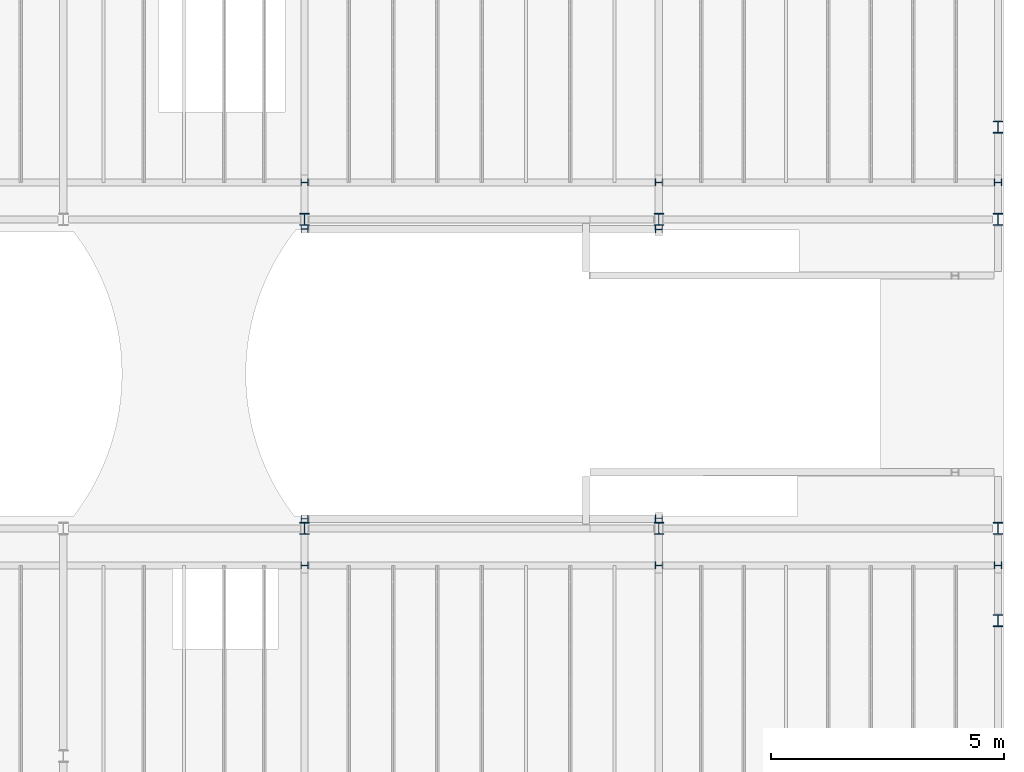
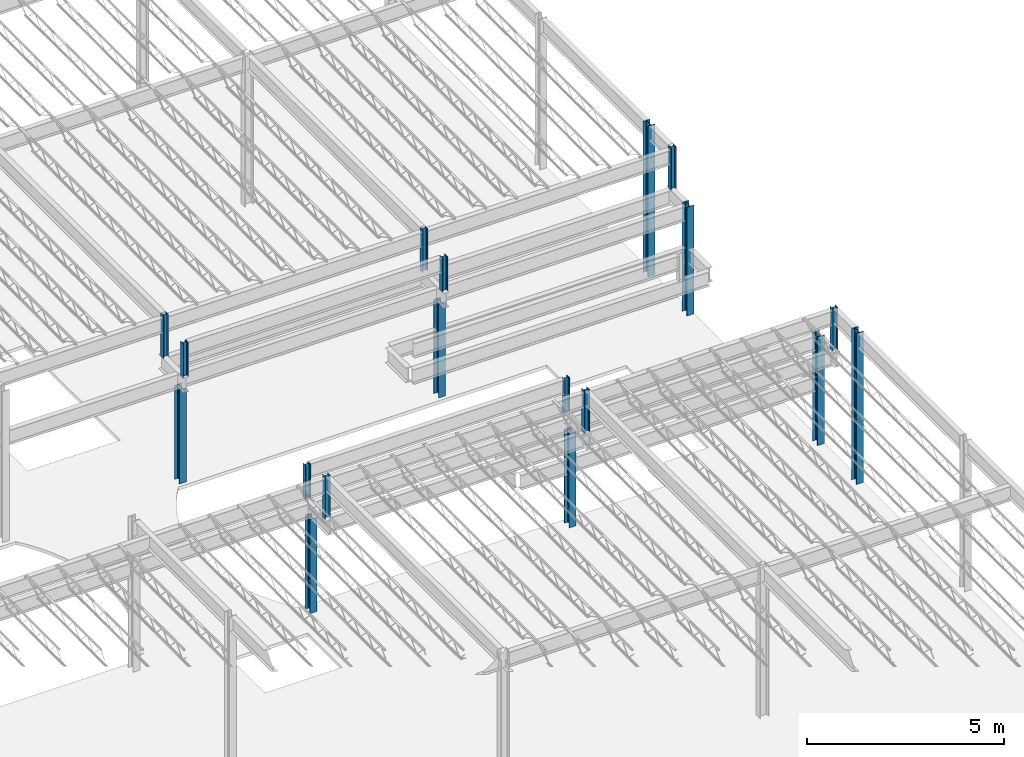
# One storey, part 4 of 119: 18 columns.
"""IFC2X3 building model written with IfcOpenShell, lengths in metres."""

from ifc_helpers import new_model, entity, si_unit, converted_unit, frame, frame_2d, origin, place, context, project, spatial, polyline, circle_curve, parameter, trimmed, segment, composite_curve, outline, extrude, source, transform, mapped, material, type_object, type_shapes, element, save


model = new_model("IFC2X3")

# Units and contexts
model_context = context("Model", 3, precision=1e-09, world=origin())
plan_context = context("Plan", 3, precision=1e-09, world=origin())
ifc_project = project(units=[si_unit("LENGTHUNIT", "METRE"), si_unit("AREAUNIT", "SQUARE_METRE"), si_unit("VOLUMEUNIT", "CUBIC_METRE"), converted_unit("PLANEANGLEUNIT", "DEGREE", entity("IfcRatioMeasure", 0.01745329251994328), si_unit("PLANEANGLEUNIT", "RADIAN"), dimensions=[0, 0, 0, 0, 0, 0, 0]), si_unit("TIMEUNIT", "SECOND")], contexts=[model_context, plan_context])

# Site, building, storey
site_placement = place(None, origin())
site = spatial("IfcSite", under=ifc_project, at=site_placement, Name="Default", CompositionType="ELEMENT")
building_placement = place(site_placement, origin())
building = spatial("IfcBuilding", under=site, at=building_placement, CompositionType="ELEMENT")
storey_placement = place(building_placement, frame((0.0, 0.0, 4.570000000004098)))
storey = spatial("IfcBuildingStorey", under=building, at=storey_placement, Name="Second Floor", CompositionType="ELEMENT", Elevation=4.570000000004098)

# Columns
ifc_material = material(Name="Metal - Steel - 345 MPa")
column_type_1 = type_object("IfcColumnType", Name="W250X67", PredefinedType="COLUMN")
shared_shape_1 = source(origin(), model_context, "Body", "SweptSolid", [
    extrude(outline(composite_curve([segment(polyline([(-0.102, -0.1285), (0.102, -0.1285)]), True, "CONTINUOUS"), segment(polyline([(0.102, -0.1285), (0.102, -0.1128)]), True, "CONTINUOUS"), segment(polyline([(0.102, -0.1128), (0.02174999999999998, -0.1128)]), True, "CONTINUOUS"), segment(trimmed(circle_curve(frame_2d((0.02174999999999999, -0.09549999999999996), x_axis=(-1.0, 0.0)), 0.0173), [parameter(4.071109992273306e-13)], [parameter(90.00000000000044)], True, "PARAMETER"), False, "CONTINUOUS"), segment(polyline([(0.004449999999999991, -0.09549999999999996), (0.004449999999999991, 0.09549999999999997)]), True, "CONTINUOUS"), segment(trimmed(circle_curve(frame_2d((0.02174999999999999, 0.09549999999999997), x_axis=(-1.0, 0.0)), 0.0173), [parameter(270.0000000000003)], [parameter(3.562221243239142e-13)], True, "PARAMETER"), False, "CONTINUOUS"), segment(polyline([(0.02174999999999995, 0.1128), (0.102, 0.1128)]), True, "CONTINUOUS"), segment(polyline([(0.102, 0.1128), (0.102, 0.1285)]), True, "CONTINUOUS"), segment(polyline([(0.102, 0.1285), (-0.102, 0.1285)]), True, "CONTINUOUS"), segment(polyline([(-0.102, 0.1285), (-0.102, 0.1128)]), True, "CONTINUOUS"), segment(polyline([(-0.102, 0.1128), (-0.02174999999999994, 0.1128)]), True, "CONTINUOUS"), segment(trimmed(circle_curve(frame_2d((-0.02175000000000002, 0.09549999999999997), x_axis=(-1.0, 0.0)), 0.0173), [parameter(179.9999999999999)], [parameter(269.9999999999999)], True, "PARAMETER"), False, "CONTINUOUS"), segment(polyline([(-0.004450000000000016, 0.09550000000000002), (-0.004450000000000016, -0.09549999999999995)]), True, "CONTINUOUS"), segment(trimmed(circle_curve(frame_2d((-0.02175000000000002, -0.09549999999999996), x_axis=(-1.0, 0.0)), 0.0173), [parameter(90.00000000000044)], [parameter(180.0000000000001)], True, "PARAMETER"), False, "CONTINUOUS"), segment(polyline([(-0.02175000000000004, -0.1128), (-0.102, -0.1128)]), True, "CONTINUOUS"), segment(polyline([(-0.102, -0.1128), (-0.102, -0.1285)]), True, "CONTINUOUS")], self_intersect=False)), frame((0.0, 0.0, 4.570000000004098), z_axis=(0.0, 0.0, 1.0), x_axis=(-1.0, 0.0, 0.0)), (0.0, 0.0, 1.0), 4.679999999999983),
])
type_shapes(column_type_1, [shared_shape_1])
column_1_placement = place(storey_placement, frame((0.0, 36.99124480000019, -4.570000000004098), z_axis=(0.0, 0.0, 1.0), x_axis=(-1.0, 0.0, 0.0)))
element("IfcColumn", 1, at=column_1_placement, inside=storey, type_object=column_type_1, material=ifc_material, Name="M_W-Wide Flange-Column:W250X67:W250X67", ObjectType="W250X67", context=model_context, shape_type="MappedRepresentation", body=[
    mapped(shared_shape_1, transform((0.0, 0.0, 0.0), scale=1.0)),
])
column_type_2 = type_object("IfcColumnType", Name="W150X22.5", PredefinedType="COLUMN")
shared_shape_2 = source(origin(), model_context, "Body", "SweptSolid", [
    extrude(outline(composite_curve([segment(polyline([(-0.07599999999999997, -0.07599999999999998), (-0.06939999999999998, -0.07599999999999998)]), True, "CONTINUOUS"), segment(polyline([(-0.06939999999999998, -0.07599999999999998), (-0.06939999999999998, -0.01430000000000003)]), True, "CONTINUOUS"), segment(trimmed(circle_curve(frame_2d((-0.05799999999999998, -0.01430000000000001), x_axis=(0.0, -1.0)), 0.0114), [parameter(179.9999999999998)], [parameter(269.9999999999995)], True, "PARAMETER"), False, "CONTINUOUS"), segment(polyline([(-0.05799999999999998, -0.002899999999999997), (0.05800000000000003, -0.002899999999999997)]), True, "CONTINUOUS"), segment(trimmed(circle_curve(frame_2d((0.058, -0.01430000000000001), x_axis=(0.0, -1.0)), 0.0114), [parameter(89.99999999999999)], [parameter(180.0)], True, "PARAMETER"), False, "CONTINUOUS"), segment(polyline([(0.06940000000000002, -0.01429999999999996), (0.0694, -0.07599999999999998)]), True, "CONTINUOUS"), segment(polyline([(0.0694, -0.07599999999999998), (0.076, -0.07599999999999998)]), True, "CONTINUOUS"), segment(polyline([(0.076, -0.07599999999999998), (0.076, 0.07599999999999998)]), True, "CONTINUOUS"), segment(polyline([(0.076, 0.07599999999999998), (0.0694, 0.07599999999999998)]), True, "CONTINUOUS"), segment(polyline([(0.0694, 0.07599999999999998), (0.0694, 0.01429999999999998)]), True, "CONTINUOUS"), segment(trimmed(circle_curve(frame_2d((0.058, 0.0143), x_axis=(0.0, -1.0)), 0.0114), [parameter(359.9999999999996)], [parameter(89.99999999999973)], True, "PARAMETER"), False, "CONTINUOUS"), segment(polyline([(0.058, 0.002899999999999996), (-0.05799999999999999, 0.002899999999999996)]), True, "CONTINUOUS"), segment(trimmed(circle_curve(frame_2d((-0.05799999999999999, 0.0143), x_axis=(0.0, -1.0)), 0.0114), [parameter(269.9999999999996)], [parameter(359.9999999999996)], True, "PARAMETER"), False, "CONTINUOUS"), segment(polyline([(-0.06939999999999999, 0.0143), (-0.06939999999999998, 0.07599999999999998)]), True, "CONTINUOUS"), segment(polyline([(-0.06939999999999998, 0.07599999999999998), (-0.07599999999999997, 0.07599999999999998)]), True, "CONTINUOUS"), segment(polyline([(-0.07599999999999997, 0.07599999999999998), (-0.07599999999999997, -0.07599999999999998)]), True, "CONTINUOUS")], self_intersect=False)), frame((0.0, 0.0, 7.936500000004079), z_axis=(0.0, 0.0, 1.0), x_axis=(0.0, 1.0, 0.0)), (0.0, 0.0, 1.0), 1.3135),
])
type_shapes(column_type_2, [shared_shape_2])
for number, where, z_axis, x_axis in (
    (2, (-9.937549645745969e-06, 27.58500000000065, -4.570000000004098), (0.0, 0.0, 1.0), (0.0, -1.0, 0.0)),
    (3, (-14.87997499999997, 27.58500000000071, -4.570000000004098), (0.0, 0.0, 1.0), (0.0, -1.0, 0.0)),
    (4, (-7.280000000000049, 27.58500000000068, -4.570000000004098), (0.0, 0.0, 1.0), (0.0, -1.0, 0.0)),
):
    element("IfcColumn", number, at=place(storey_placement, frame(where, z_axis=z_axis, x_axis=x_axis)), inside=storey, type_object=column_type_2, material=ifc_material, Name="M_W-Wide Flange-Column:W150X22.5:W150X22.5", ObjectType="W150X22.5", context=model_context, shape_type="MappedRepresentation", body=[
        mapped(shared_shape_2, transform((0.0, 0.0, 0.0), scale=1.0)),
    ])
column_type_3 = type_object("IfcColumnType", Name="W250X67", PredefinedType="COLUMN")
shared_shape_3 = source(origin(), model_context, "Body", "SweptSolid", [
    extrude(outline(composite_curve([segment(polyline([(-0.1285, -0.102), (-0.1128, -0.102)]), True, "CONTINUOUS"), segment(polyline([(-0.1128, -0.102), (-0.1128, -0.02175000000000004)]), True, "CONTINUOUS"), segment(trimmed(circle_curve(frame_2d((-0.09549999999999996, -0.02175000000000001), x_axis=(0.0, -1.0)), 0.0173), [parameter(179.9999999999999)], [parameter(269.9999999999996)], True, "PARAMETER"), False, "CONTINUOUS"), segment(polyline([(-0.09549999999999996, -0.00445000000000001), (0.0955, -0.00445000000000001)]), True, "CONTINUOUS"), segment(trimmed(circle_curve(frame_2d((0.09549999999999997, -0.02175000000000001), x_axis=(0.0, -1.0)), 0.0173), [parameter(90.00000000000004)], [parameter(180.0000000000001)], True, "PARAMETER"), False, "CONTINUOUS"), segment(polyline([(0.1128, -0.02174999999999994), (0.1128, -0.102)]), True, "CONTINUOUS"), segment(polyline([(0.1128, -0.102), (0.1285, -0.102)]), True, "CONTINUOUS"), segment(polyline([(0.1285, -0.102), (0.1285, 0.102)]), True, "CONTINUOUS"), segment(polyline([(0.1285, 0.102), (0.1128, 0.102)]), True, "CONTINUOUS"), segment(polyline([(0.1128, 0.102), (0.1128, 0.02174999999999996)]), True, "CONTINUOUS"), segment(trimmed(circle_curve(frame_2d((0.09549999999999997, 0.02175), x_axis=(0.0, -1.0)), 0.0173), [parameter(359.9999999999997)], [parameter(89.99999999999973)], True, "PARAMETER"), False, "CONTINUOUS"), segment(polyline([(0.09549999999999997, 0.004449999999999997), (-0.09549999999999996, 0.004449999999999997)]), True, "CONTINUOUS"), segment(trimmed(circle_curve(frame_2d((-0.09549999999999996, 0.02175), x_axis=(0.0, -1.0)), 0.0173), [parameter(269.9999999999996)], [parameter(359.9999999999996)], True, "PARAMETER"), False, "CONTINUOUS"), segment(polyline([(-0.1128, 0.02174999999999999), (-0.1128, 0.102)]), True, "CONTINUOUS"), segment(polyline([(-0.1128, 0.102), (-0.1285, 0.102)]), True, "CONTINUOUS"), segment(polyline([(-0.1285, 0.102), (-0.1285, -0.102)]), True, "CONTINUOUS")], self_intersect=False)), frame((0.0, 0.0, 4.570000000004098), z_axis=(0.0, 0.0, 1.0), x_axis=(0.0, 1.0, 0.0)), (0.0, 0.0, 1.0), 4.679999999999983),
])
type_shapes(column_type_3, [shared_shape_3])
column_2_placement = place(storey_placement, frame((0.0, 26.39875519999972, -4.570000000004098), z_axis=(0.0, 0.0, 1.0), x_axis=(-1.0, 0.0, 0.0)))
element("IfcColumn", 5, at=column_2_placement, inside=storey, type_object=column_type_3, material=ifc_material, Name="M_W-Wide Flange-Column:W250X67:W250X67", ObjectType="W250X67", context=model_context, shape_type="MappedRepresentation", body=[
    mapped(shared_shape_3, transform((0.0, 0.0, 0.0), scale=1.0)),
])
column_type_4 = type_object("IfcColumnType", Name="W150X22.5", PredefinedType="COLUMN")
shared_shape_4 = source(origin(), model_context, "Body", "SweptSolid", [
    extrude(outline(composite_curve([segment(polyline([(-0.07599999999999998, -0.07599999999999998), (0.07599999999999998, -0.07599999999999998)]), True, "CONTINUOUS"), segment(polyline([(0.07599999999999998, -0.07599999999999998), (0.07599999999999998, -0.06939999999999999)]), True, "CONTINUOUS"), segment(polyline([(0.07599999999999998, -0.06939999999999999), (0.0143, -0.0694)]), True, "CONTINUOUS"), segment(trimmed(circle_curve(frame_2d((0.0143, -0.05799999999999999), x_axis=(-1.0, 0.0)), 0.0114), [parameter(4.071109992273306e-13)], [parameter(90.00000000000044)], True, "PARAMETER"), False, "CONTINUOUS"), segment(polyline([(0.002899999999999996, -0.05799999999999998), (0.002899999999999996, 0.05800000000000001)]), True, "CONTINUOUS"), segment(trimmed(circle_curve(frame_2d((0.0143, 0.058), x_axis=(-1.0, 0.0)), 0.0114), [parameter(270.0000000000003)], [parameter(4.071109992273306e-13)], True, "PARAMETER"), False, "CONTINUOUS"), segment(polyline([(0.01429999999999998, 0.06939999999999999), (0.07599999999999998, 0.06939999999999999)]), True, "CONTINUOUS"), segment(polyline([(0.07599999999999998, 0.06939999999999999), (0.07599999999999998, 0.07599999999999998)]), True, "CONTINUOUS"), segment(polyline([(0.07599999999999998, 0.07599999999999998), (-0.07599999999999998, 0.07599999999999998)]), True, "CONTINUOUS"), segment(polyline([(-0.07599999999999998, 0.07599999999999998), (-0.07599999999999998, 0.06939999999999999)]), True, "CONTINUOUS"), segment(polyline([(-0.07599999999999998, 0.06939999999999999), (-0.01429999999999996, 0.0694)]), True, "CONTINUOUS"), segment(trimmed(circle_curve(frame_2d((-0.0143, 0.058), x_axis=(-1.0, 0.0)), 0.0114), [parameter(180.0)], [parameter(270.0)], True, "PARAMETER"), False, "CONTINUOUS"), segment(polyline([(-0.002899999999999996, 0.05800000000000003), (-0.002899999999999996, -0.05799999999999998)]), True, "CONTINUOUS"), segment(trimmed(circle_curve(frame_2d((-0.0143, -0.05799999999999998), x_axis=(-1.0, 0.0)), 0.0114), [parameter(90.0000000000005)], [parameter(180.0000000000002)], True, "PARAMETER"), False, "CONTINUOUS"), segment(polyline([(-0.01430000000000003, -0.06939999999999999), (-0.07599999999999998, -0.06939999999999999)]), True, "CONTINUOUS"), segment(polyline([(-0.07599999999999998, -0.06939999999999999), (-0.07599999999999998, -0.07599999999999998)]), True, "CONTINUOUS")], self_intersect=False)), frame((0.0, 0.0, 7.936500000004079), z_axis=(0.0, 0.0, 1.0), x_axis=(-1.0, 0.0, 0.0)), (0.0, 0.0, 1.0), 1.3135),
])
type_shapes(column_type_4, [shared_shape_4])
for number, where, z_axis, x_axis in (
    (6, (-7.280000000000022, 35.80499999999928, -4.570000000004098), (0.0, 0.0, 1.0), (0.0, 1.0, 0.0)),
    (7, (-14.87997499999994, 35.8049999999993, -4.570000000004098), (0.0, 0.0, 1.0), (0.0, 1.0, 0.0)),
    (8, (-9.937549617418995e-06, 35.80499999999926, -4.570000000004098), (0.0, 0.0, 1.0), (0.0, 1.0, 0.0)),
):
    element("IfcColumn", number, at=place(storey_placement, frame(where, z_axis=z_axis, x_axis=x_axis)), inside=storey, type_object=column_type_4, material=ifc_material, Name="M_W-Wide Flange-Column:W150X22.5:W150X22.5", ObjectType="W150X22.5", context=model_context, shape_type="MappedRepresentation", body=[
        mapped(shared_shape_4, transform((0.0, 0.0, 0.0), scale=1.0)),
    ])
column_type_5 = type_object("IfcColumnType", Name="W150X22.5", PredefinedType="COLUMN")
shared_shape_5 = source(origin(), model_context, "Body", "SweptSolid", [
    extrude(outline(composite_curve([segment(polyline([(-0.07599999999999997, -0.07599999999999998), (-0.06939999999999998, -0.07599999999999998)]), True, "CONTINUOUS"), segment(polyline([(-0.06939999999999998, -0.07599999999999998), (-0.06939999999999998, -0.01430000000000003)]), True, "CONTINUOUS"), segment(trimmed(circle_curve(frame_2d((-0.05799999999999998, -0.01430000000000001), x_axis=(0.0, -1.0)), 0.0114), [parameter(179.9999999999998)], [parameter(269.9999999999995)], True, "PARAMETER"), False, "CONTINUOUS"), segment(polyline([(-0.05799999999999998, -0.002899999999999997), (0.05800000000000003, -0.002899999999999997)]), True, "CONTINUOUS"), segment(trimmed(circle_curve(frame_2d((0.058, -0.01430000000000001), x_axis=(0.0, -1.0)), 0.0114), [parameter(89.99999999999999)], [parameter(180.0)], True, "PARAMETER"), False, "CONTINUOUS"), segment(polyline([(0.06940000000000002, -0.01429999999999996), (0.0694, -0.07599999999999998)]), True, "CONTINUOUS"), segment(polyline([(0.0694, -0.07599999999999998), (0.076, -0.07599999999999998)]), True, "CONTINUOUS"), segment(polyline([(0.076, -0.07599999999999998), (0.076, 0.07599999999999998)]), True, "CONTINUOUS"), segment(polyline([(0.076, 0.07599999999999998), (0.0694, 0.07599999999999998)]), True, "CONTINUOUS"), segment(polyline([(0.0694, 0.07599999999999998), (0.0694, 0.01429999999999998)]), True, "CONTINUOUS"), segment(trimmed(circle_curve(frame_2d((0.058, 0.0143), x_axis=(0.0, -1.0)), 0.0114), [parameter(359.9999999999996)], [parameter(89.99999999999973)], True, "PARAMETER"), False, "CONTINUOUS"), segment(polyline([(0.058, 0.002899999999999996), (-0.05799999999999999, 0.002899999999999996)]), True, "CONTINUOUS"), segment(trimmed(circle_curve(frame_2d((-0.05799999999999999, 0.0143), x_axis=(0.0, -1.0)), 0.0114), [parameter(269.9999999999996)], [parameter(359.9999999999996)], True, "PARAMETER"), False, "CONTINUOUS"), segment(polyline([(-0.06939999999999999, 0.0143), (-0.06939999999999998, 0.07599999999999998)]), True, "CONTINUOUS"), segment(polyline([(-0.06939999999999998, 0.07599999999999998), (-0.07599999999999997, 0.07599999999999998)]), True, "CONTINUOUS"), segment(polyline([(-0.07599999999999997, 0.07599999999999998), (-0.07599999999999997, -0.07599999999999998)]), True, "CONTINUOUS")], self_intersect=False)), frame((0.0, 0.0, 7.936500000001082), z_axis=(0.0, 0.0, 1.0), x_axis=(0.0, 1.0, 0.0)), (0.0, 0.0, 1.0), 1.059999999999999),
])
type_shapes(column_type_5, [shared_shape_5])
for number, where, z_axis, x_axis in (
    (9, (-7.279991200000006, 28.59450439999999, -4.570000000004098), (0.0, 0.0, 1.0), (0.0, -1.0, 0.0)),
    (10, (-14.87997499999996, 28.5850000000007, -4.570000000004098), (0.0, 0.0, 1.0), (0.0, -1.0, 0.0)),
):
    element("IfcColumn", number, at=place(storey_placement, frame(where, z_axis=z_axis, x_axis=x_axis)), inside=storey, type_object=column_type_5, material=ifc_material, Name="M_W-Wide Flange-Column:W150X22.5:W150X22.5", ObjectType="W150X22.5", context=model_context, shape_type="MappedRepresentation", body=[
        mapped(shared_shape_5, transform((0.0, 0.0, 0.0), scale=1.0)),
    ])
column_type_6 = type_object("IfcColumnType", Name="W250X67", PredefinedType="COLUMN")
shared_shape_6 = source(origin(), model_context, "Body", "SweptSolid", [
    extrude(outline(composite_curve([segment(polyline([(-0.102, -0.1285), (0.102, -0.1285)]), True, "CONTINUOUS"), segment(polyline([(0.102, -0.1285), (0.102, -0.1128)]), True, "CONTINUOUS"), segment(polyline([(0.102, -0.1128), (0.02174999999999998, -0.1128)]), True, "CONTINUOUS"), segment(trimmed(circle_curve(frame_2d((0.02174999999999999, -0.09549999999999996), x_axis=(-1.0, 0.0)), 0.0173), [parameter(4.071109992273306e-13)], [parameter(90.00000000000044)], True, "PARAMETER"), False, "CONTINUOUS"), segment(polyline([(0.004449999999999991, -0.09549999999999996), (0.004449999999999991, 0.09549999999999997)]), True, "CONTINUOUS"), segment(trimmed(circle_curve(frame_2d((0.02174999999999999, 0.09549999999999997), x_axis=(-1.0, 0.0)), 0.0173), [parameter(270.0000000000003)], [parameter(3.562221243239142e-13)], True, "PARAMETER"), False, "CONTINUOUS"), segment(polyline([(0.02174999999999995, 0.1128), (0.102, 0.1128)]), True, "CONTINUOUS"), segment(polyline([(0.102, 0.1128), (0.102, 0.1285)]), True, "CONTINUOUS"), segment(polyline([(0.102, 0.1285), (-0.102, 0.1285)]), True, "CONTINUOUS"), segment(polyline([(-0.102, 0.1285), (-0.102, 0.1128)]), True, "CONTINUOUS"), segment(polyline([(-0.102, 0.1128), (-0.02174999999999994, 0.1128)]), True, "CONTINUOUS"), segment(trimmed(circle_curve(frame_2d((-0.02175000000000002, 0.09549999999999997), x_axis=(-1.0, 0.0)), 0.0173), [parameter(179.9999999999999)], [parameter(269.9999999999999)], True, "PARAMETER"), False, "CONTINUOUS"), segment(polyline([(-0.004450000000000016, 0.09550000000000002), (-0.004450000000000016, -0.09549999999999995)]), True, "CONTINUOUS"), segment(trimmed(circle_curve(frame_2d((-0.02175000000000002, -0.09549999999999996), x_axis=(-1.0, 0.0)), 0.0173), [parameter(90.00000000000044)], [parameter(180.0000000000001)], True, "PARAMETER"), False, "CONTINUOUS"), segment(polyline([(-0.02175000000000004, -0.1128), (-0.102, -0.1128)]), True, "CONTINUOUS"), segment(polyline([(-0.102, -0.1128), (-0.102, -0.1285)]), True, "CONTINUOUS")], self_intersect=False)), frame((0.0, 0.0, 4.570000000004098), z_axis=(0.0, 0.0, 1.0), x_axis=(-1.0, 0.0, 0.0)), (0.0, 0.0, 1.0), 2.911499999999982),
])
type_shapes(column_type_6, [shared_shape_6])
for number, where, z_axis, x_axis in (
    (11, (-14.87997499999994, 35.00999999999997, -4.570000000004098), (0.0, 0.0, 1.0), (-1.0, 0.0, 0.0)),
    (12, (-7.280000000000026, 35.00999999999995, -4.570000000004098), (0.0, 0.0, 1.0), (-1.0, 0.0, 0.0)),
):
    element("IfcColumn", number, at=place(storey_placement, frame(where, z_axis=z_axis, x_axis=x_axis)), inside=storey, type_object=column_type_6, material=ifc_material, Name="M_W-Wide Flange-Column:W250X67:W250X67", ObjectType="W250X67", context=model_context, shape_type="MappedRepresentation", body=[
        mapped(shared_shape_6, transform((0.0, 0.0, 0.0), scale=1.0)),
    ])
column_type_7 = type_object("IfcColumnType", Name="W250X67", PredefinedType="COLUMN")
shared_shape_7 = source(origin(), model_context, "Body", "SweptSolid", [
    extrude(outline(composite_curve([segment(polyline([(-0.1285, -0.102), (-0.1128, -0.102)]), True, "CONTINUOUS"), segment(polyline([(-0.1128, -0.102), (-0.1128, -0.02175000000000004)]), True, "CONTINUOUS"), segment(trimmed(circle_curve(frame_2d((-0.09549999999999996, -0.02175000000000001), x_axis=(0.0, -1.0)), 0.0173), [parameter(179.9999999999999)], [parameter(269.9999999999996)], True, "PARAMETER"), False, "CONTINUOUS"), segment(polyline([(-0.09549999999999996, -0.00445000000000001), (0.0955, -0.00445000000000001)]), True, "CONTINUOUS"), segment(trimmed(circle_curve(frame_2d((0.09549999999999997, -0.02175000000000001), x_axis=(0.0, -1.0)), 0.0173), [parameter(90.00000000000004)], [parameter(180.0000000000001)], True, "PARAMETER"), False, "CONTINUOUS"), segment(polyline([(0.1128, -0.02174999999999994), (0.1128, -0.102)]), True, "CONTINUOUS"), segment(polyline([(0.1128, -0.102), (0.1285, -0.102)]), True, "CONTINUOUS"), segment(polyline([(0.1285, -0.102), (0.1285, 0.102)]), True, "CONTINUOUS"), segment(polyline([(0.1285, 0.102), (0.1128, 0.102)]), True, "CONTINUOUS"), segment(polyline([(0.1128, 0.102), (0.1128, 0.02174999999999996)]), True, "CONTINUOUS"), segment(trimmed(circle_curve(frame_2d((0.09549999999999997, 0.02175), x_axis=(0.0, -1.0)), 0.0173), [parameter(359.9999999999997)], [parameter(89.99999999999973)], True, "PARAMETER"), False, "CONTINUOUS"), segment(polyline([(0.09549999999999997, 0.004449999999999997), (-0.09549999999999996, 0.004449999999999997)]), True, "CONTINUOUS"), segment(trimmed(circle_curve(frame_2d((-0.09549999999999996, 0.02175), x_axis=(0.0, -1.0)), 0.0173), [parameter(269.9999999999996)], [parameter(359.9999999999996)], True, "PARAMETER"), False, "CONTINUOUS"), segment(polyline([(-0.1128, 0.02174999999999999), (-0.1128, 0.102)]), True, "CONTINUOUS"), segment(polyline([(-0.1128, 0.102), (-0.1285, 0.102)]), True, "CONTINUOUS"), segment(polyline([(-0.1285, 0.102), (-0.1285, -0.102)]), True, "CONTINUOUS")], self_intersect=False)), frame((0.0, 0.0, 4.570000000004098), z_axis=(0.0, 0.0, 1.0), x_axis=(0.0, 1.0, 0.0)), (0.0, 0.0, 1.0), 2.911499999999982),
])
type_shapes(column_type_7, [shared_shape_7])
for number, where, z_axis, x_axis in (
    (13, (-7.280000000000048, 28.38000000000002, -4.570000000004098), (0.0, 0.0, 1.0), (-1.0, 0.0, 0.0)),
    (14, (-14.87997499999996, 28.38000000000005, -4.570000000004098), (0.0, 0.0, 1.0), (-1.0, 0.0, 0.0)),
):
    element("IfcColumn", number, at=place(storey_placement, frame(where, z_axis=z_axis, x_axis=x_axis)), inside=storey, type_object=column_type_7, material=ifc_material, Name="M_W-Wide Flange-Column:W250X67:W250X67", ObjectType="W250X67", context=model_context, shape_type="MappedRepresentation", body=[
        mapped(shared_shape_7, transform((0.0, 0.0, 0.0), scale=1.0)),
    ])
column_type_8 = type_object("IfcColumnType", Name="W150X22.5", PredefinedType="COLUMN")
shared_shape_8 = source(origin(), model_context, "Body", "SweptSolid", [
    extrude(outline(composite_curve([segment(polyline([(-0.07599999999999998, -0.07599999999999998), (0.07599999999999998, -0.07599999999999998)]), True, "CONTINUOUS"), segment(polyline([(0.07599999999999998, -0.07599999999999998), (0.07599999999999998, -0.06939999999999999)]), True, "CONTINUOUS"), segment(polyline([(0.07599999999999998, -0.06939999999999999), (0.0143, -0.0694)]), True, "CONTINUOUS"), segment(trimmed(circle_curve(frame_2d((0.0143, -0.05799999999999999), x_axis=(-1.0, 0.0)), 0.0114), [parameter(4.071109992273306e-13)], [parameter(90.00000000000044)], True, "PARAMETER"), False, "CONTINUOUS"), segment(polyline([(0.002899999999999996, -0.05799999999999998), (0.002899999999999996, 0.05800000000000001)]), True, "CONTINUOUS"), segment(trimmed(circle_curve(frame_2d((0.0143, 0.058), x_axis=(-1.0, 0.0)), 0.0114), [parameter(270.0000000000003)], [parameter(4.071109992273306e-13)], True, "PARAMETER"), False, "CONTINUOUS"), segment(polyline([(0.01429999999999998, 0.06939999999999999), (0.07599999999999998, 0.06939999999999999)]), True, "CONTINUOUS"), segment(polyline([(0.07599999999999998, 0.06939999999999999), (0.07599999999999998, 0.07599999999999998)]), True, "CONTINUOUS"), segment(polyline([(0.07599999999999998, 0.07599999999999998), (-0.07599999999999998, 0.07599999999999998)]), True, "CONTINUOUS"), segment(polyline([(-0.07599999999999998, 0.07599999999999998), (-0.07599999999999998, 0.06939999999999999)]), True, "CONTINUOUS"), segment(polyline([(-0.07599999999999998, 0.06939999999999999), (-0.01429999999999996, 0.0694)]), True, "CONTINUOUS"), segment(trimmed(circle_curve(frame_2d((-0.0143, 0.058), x_axis=(-1.0, 0.0)), 0.0114), [parameter(180.0)], [parameter(270.0)], True, "PARAMETER"), False, "CONTINUOUS"), segment(polyline([(-0.002899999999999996, 0.05800000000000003), (-0.002899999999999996, -0.05799999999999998)]), True, "CONTINUOUS"), segment(trimmed(circle_curve(frame_2d((-0.0143, -0.05799999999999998), x_axis=(-1.0, 0.0)), 0.0114), [parameter(90.0000000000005)], [parameter(180.0000000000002)], True, "PARAMETER"), False, "CONTINUOUS"), segment(polyline([(-0.01430000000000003, -0.06939999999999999), (-0.07599999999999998, -0.06939999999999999)]), True, "CONTINUOUS"), segment(polyline([(-0.07599999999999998, -0.06939999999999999), (-0.07599999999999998, -0.07599999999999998)]), True, "CONTINUOUS")], self_intersect=False)), frame((0.0, 0.0, 7.936500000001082), z_axis=(0.0, 0.0, 1.0), x_axis=(-1.0, 0.0, 0.0)), (0.0, 0.0, 1.0), 1.059999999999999),
])
type_shapes(column_type_8, [shared_shape_8])
for number, where, z_axis, x_axis in (
    (15, (-14.87997499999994, 34.80499999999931, -4.570000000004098), (0.0, 0.0, 1.0), (0.0, 1.0, 0.0)),
    (16, (-7.279991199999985, 34.79549559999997, -4.570000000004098), (0.0, 0.0, 1.0), (0.0, 1.0, 0.0)),
):
    element("IfcColumn", number, at=place(storey_placement, frame(where, z_axis=z_axis, x_axis=x_axis)), inside=storey, type_object=column_type_8, material=ifc_material, Name="M_W-Wide Flange-Column:W150X22.5:W150X22.5", ObjectType="W150X22.5", context=model_context, shape_type="MappedRepresentation", body=[
        mapped(shared_shape_8, transform((0.0, 0.0, 0.0), scale=1.0)),
    ])
column_type_9 = type_object("IfcColumnType", Name="W250X67", PredefinedType="COLUMN")
shared_shape_9 = source(origin(), model_context, "Body", "SweptSolid", [
    extrude(outline(composite_curve([segment(polyline([(-0.102, -0.1285), (0.102, -0.1285)]), True, "CONTINUOUS"), segment(polyline([(0.102, -0.1285), (0.102, -0.1128)]), True, "CONTINUOUS"), segment(polyline([(0.102, -0.1128), (0.02174999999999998, -0.1128)]), True, "CONTINUOUS"), segment(trimmed(circle_curve(frame_2d((0.02174999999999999, -0.09549999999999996), x_axis=(-1.0, 0.0)), 0.0173), [parameter(4.071109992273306e-13)], [parameter(90.00000000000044)], True, "PARAMETER"), False, "CONTINUOUS"), segment(polyline([(0.004449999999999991, -0.09549999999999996), (0.004449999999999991, 0.09549999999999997)]), True, "CONTINUOUS"), segment(trimmed(circle_curve(frame_2d((0.02174999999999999, 0.09549999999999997), x_axis=(-1.0, 0.0)), 0.0173), [parameter(270.0000000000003)], [parameter(3.562221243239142e-13)], True, "PARAMETER"), False, "CONTINUOUS"), segment(polyline([(0.02174999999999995, 0.1128), (0.102, 0.1128)]), True, "CONTINUOUS"), segment(polyline([(0.102, 0.1128), (0.102, 0.1285)]), True, "CONTINUOUS"), segment(polyline([(0.102, 0.1285), (-0.102, 0.1285)]), True, "CONTINUOUS"), segment(polyline([(-0.102, 0.1285), (-0.102, 0.1128)]), True, "CONTINUOUS"), segment(polyline([(-0.102, 0.1128), (-0.02174999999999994, 0.1128)]), True, "CONTINUOUS"), segment(trimmed(circle_curve(frame_2d((-0.02175000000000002, 0.09549999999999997), x_axis=(-1.0, 0.0)), 0.0173), [parameter(179.9999999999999)], [parameter(269.9999999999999)], True, "PARAMETER"), False, "CONTINUOUS"), segment(polyline([(-0.004450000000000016, 0.09550000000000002), (-0.004450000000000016, -0.09549999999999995)]), True, "CONTINUOUS"), segment(trimmed(circle_curve(frame_2d((-0.02175000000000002, -0.09549999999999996), x_axis=(-1.0, 0.0)), 0.0173), [parameter(90.00000000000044)], [parameter(180.0000000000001)], True, "PARAMETER"), False, "CONTINUOUS"), segment(polyline([(-0.02175000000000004, -0.1128), (-0.102, -0.1128)]), True, "CONTINUOUS"), segment(polyline([(-0.102, -0.1128), (-0.102, -0.1285)]), True, "CONTINUOUS")], self_intersect=False)), frame((0.0, 0.0, 4.570000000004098), z_axis=(0.0, 0.0, 1.0), x_axis=(-1.0, 0.0, 0.0)), (0.0, 0.0, 1.0), 3.366499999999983),
])
type_shapes(column_type_9, [shared_shape_9])
column_3_placement = place(storey_placement, frame((0.0, 35.00999999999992, -4.570000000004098), z_axis=(0.0, 0.0, 1.0), x_axis=(-1.0, 0.0, 0.0)))
element("IfcColumn", 17, at=column_3_placement, inside=storey, type_object=column_type_9, material=ifc_material, Name="M_W-Wide Flange-Column:W250X67:W250X67", ObjectType="W250X67", context=model_context, shape_type="MappedRepresentation", body=[
    mapped(shared_shape_9, transform((0.0, 0.0, 0.0), scale=1.0)),
])
column_type_10 = type_object("IfcColumnType", Name="W250X67", PredefinedType="COLUMN")
shared_shape_10 = source(origin(), model_context, "Body", "SweptSolid", [
    extrude(outline(composite_curve([segment(polyline([(-0.1285, -0.102), (-0.1128, -0.102)]), True, "CONTINUOUS"), segment(polyline([(-0.1128, -0.102), (-0.1128, -0.02175000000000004)]), True, "CONTINUOUS"), segment(trimmed(circle_curve(frame_2d((-0.09549999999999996, -0.02175000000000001), x_axis=(0.0, -1.0)), 0.0173), [parameter(179.9999999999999)], [parameter(269.9999999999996)], True, "PARAMETER"), False, "CONTINUOUS"), segment(polyline([(-0.09549999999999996, -0.00445000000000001), (0.0955, -0.00445000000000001)]), True, "CONTINUOUS"), segment(trimmed(circle_curve(frame_2d((0.09549999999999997, -0.02175000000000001), x_axis=(0.0, -1.0)), 0.0173), [parameter(90.00000000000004)], [parameter(180.0000000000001)], True, "PARAMETER"), False, "CONTINUOUS"), segment(polyline([(0.1128, -0.02174999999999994), (0.1128, -0.102)]), True, "CONTINUOUS"), segment(polyline([(0.1128, -0.102), (0.1285, -0.102)]), True, "CONTINUOUS"), segment(polyline([(0.1285, -0.102), (0.1285, 0.102)]), True, "CONTINUOUS"), segment(polyline([(0.1285, 0.102), (0.1128, 0.102)]), True, "CONTINUOUS"), segment(polyline([(0.1128, 0.102), (0.1128, 0.02174999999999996)]), True, "CONTINUOUS"), segment(trimmed(circle_curve(frame_2d((0.09549999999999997, 0.02175), x_axis=(0.0, -1.0)), 0.0173), [parameter(359.9999999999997)], [parameter(89.99999999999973)], True, "PARAMETER"), False, "CONTINUOUS"), segment(polyline([(0.09549999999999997, 0.004449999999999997), (-0.09549999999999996, 0.004449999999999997)]), True, "CONTINUOUS"), segment(trimmed(circle_curve(frame_2d((-0.09549999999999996, 0.02175), x_axis=(0.0, -1.0)), 0.0173), [parameter(269.9999999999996)], [parameter(359.9999999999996)], True, "PARAMETER"), False, "CONTINUOUS"), segment(polyline([(-0.1128, 0.02174999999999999), (-0.1128, 0.102)]), True, "CONTINUOUS"), segment(polyline([(-0.1128, 0.102), (-0.1285, 0.102)]), True, "CONTINUOUS"), segment(polyline([(-0.1285, 0.102), (-0.1285, -0.102)]), True, "CONTINUOUS")], self_intersect=False)), frame((0.0, 0.0, 4.570000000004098), z_axis=(0.0, 0.0, 1.0), x_axis=(0.0, 1.0, 0.0)), (0.0, 0.0, 1.0), 3.366499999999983),
])
type_shapes(column_type_10, [shared_shape_10])
column_4_placement = place(storey_placement, frame((0.0, 28.37999999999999, -4.570000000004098), z_axis=(0.0, 0.0, 1.0), x_axis=(-1.0, 0.0, 0.0)))
element("IfcColumn", 18, at=column_4_placement, inside=storey, type_object=column_type_10, material=ifc_material, Name="M_W-Wide Flange-Column:W250X67:W250X67", ObjectType="W250X67", context=model_context, shape_type="MappedRepresentation", body=[
    mapped(shared_shape_10, transform((0.0, 0.0, 0.0), scale=1.0)),
])

save(model, "model.ifc")
